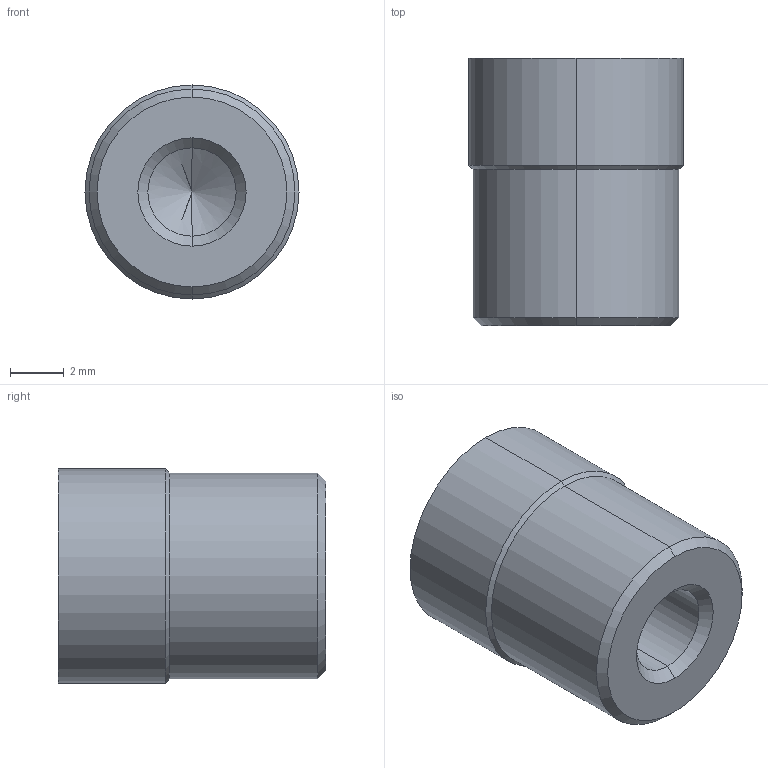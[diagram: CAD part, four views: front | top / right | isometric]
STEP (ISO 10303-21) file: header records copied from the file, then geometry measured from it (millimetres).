
FILE_DESCRIPTION (( 'STEP AP203' ), '1' );
FILE_NAME ('IR-8PEHD.STEP', '2017-09-11T11:37:38', ( 'Balzi' ), ( '' ), 'SwSTEP 2.0', 'SolidWorks 2017', '' );
FILE_SCHEMA (( 'CONFIG_CONTROL_DESIGN' ));
Length unit declared in the file: millimetre
Products named in the file (1): IR-8PEHD
Bounding box: 8 x 10 x 8 mm (x, y, z)
Volume: 413.4 mm3; surface area: 428.1 mm2
Topology: 1 solids, 1 shells, 244 faces, 677 edges, 447 vertices
Faces by surface type: plane 216, cylinder 20, cone 8
Entity records: 7728 total; most frequent: CARTESIAN_POINT 1367, ORIENTED_EDGE 1350, DIRECTION 1209, EDGE_CURVE 675, VECTOR 631, LINE 631, VERTEX_POINT 447, AXIS2_PLACEMENT_3D 289
